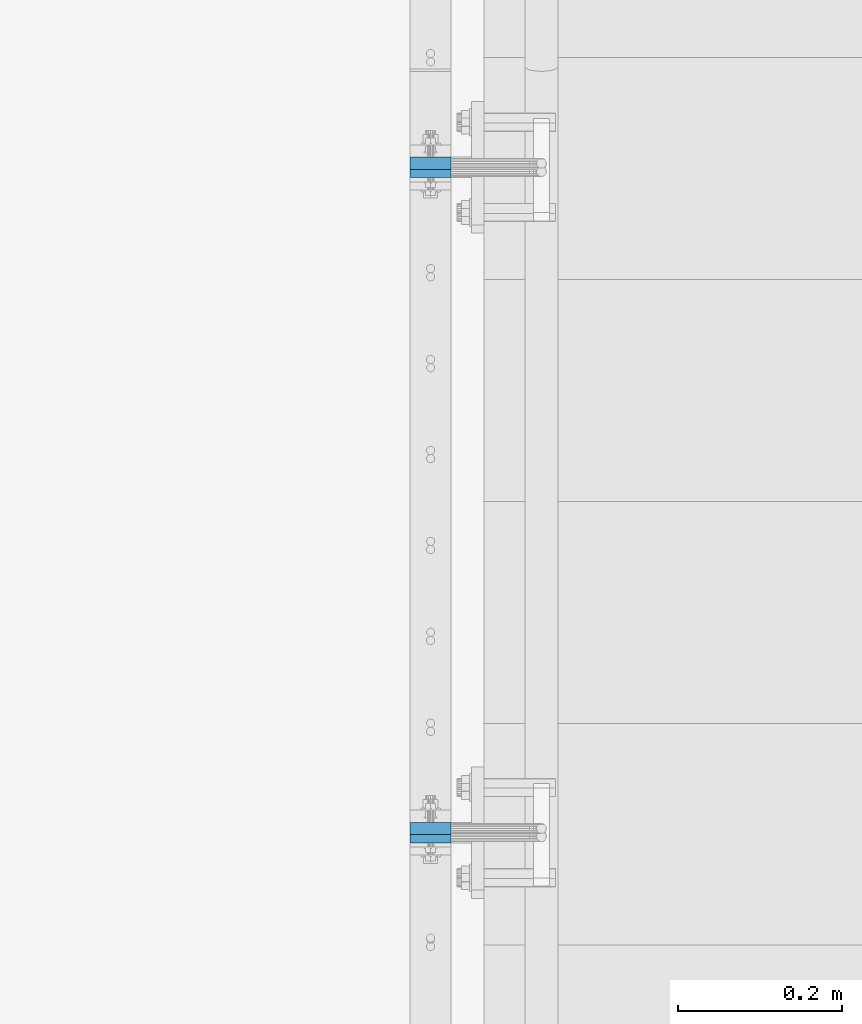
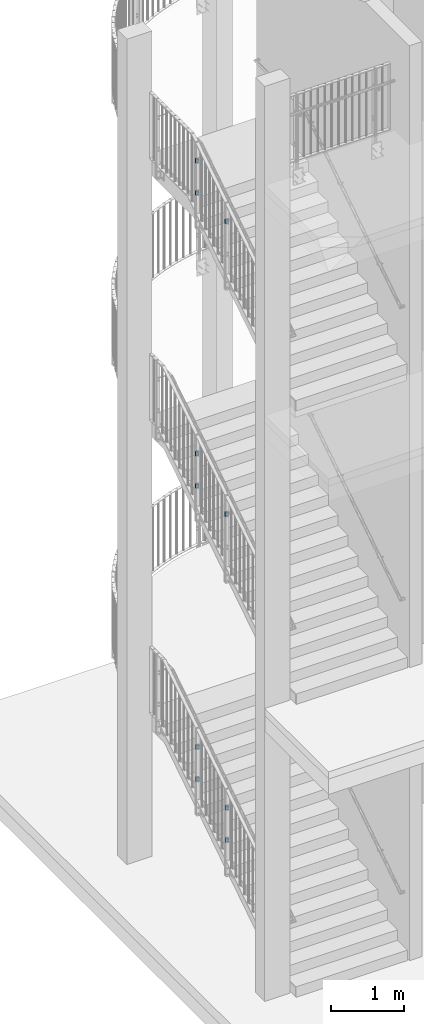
# One storey, part 122 of 296: 10 plates, 20 openings.
"""IFC2X3 building model written with IfcOpenShell, lengths in millimetres."""

from ifc_helpers import new_model, entity, si_unit, converted_unit, frame, frame_2d, origin, origin_with_axes, place, context, project, spatial, polyline, circle, outline, extrude, material, layer, layer_set, element, save


model = new_model("IFC2X3")

# Units and contexts
model_context = context("Model", 3, precision=1e-09, world=origin_with_axes())
ifc_project = project(units=[si_unit("LENGTHUNIT", "METRE", prefix="MILLI"), si_unit("AREAUNIT", "SQUARE_METRE"), si_unit("VOLUMEUNIT", "CUBIC_METRE"), converted_unit("PLANEANGLEUNIT", "DEGREE", entity("IfcPlaneAngleMeasure", 0.01745329), si_unit("PLANEANGLEUNIT", "RADIAN"), dimensions=[0, 0, 0, 0, 0, 0, 0])], contexts=[model_context])

# Site, building, storey
site_placement = place(None, origin_with_axes())
site = spatial("IfcSite", under=ifc_project, at=site_placement, Name="TZD-S?d | Treppenhausgel?nder", CompositionType="ELEMENT")
building_placement = place(site_placement, origin_with_axes())
building = spatial("IfcBuilding", under=site, at=building_placement, Name="Struktur 1", CompositionType="ELEMENT")
storey_placement = place(building_placement, origin_with_axes())
storey = spatial("IfcBuildingStorey", under=building, at=storey_placement, Name="Default Storey", CompositionType="ELEMENT", Elevation=0.0)

# Plate, openings
ifc_material = material(Name="S235JR")
ifc_layer = layer(ifc_material, 15.0)
ifc_layer_set = layer_set([ifc_layer], Name="S235JR")
plate_1_placement = place(None, frame((-45.0, -1552.5, 11904.999), z_axis=(0.0, -1.0, 0.0), x_axis=(1.0, 0.0, 0.0)))
plate_1 = element("IfcPlate", 1, at=plate_1_placement, inside=storey, material=ifc_layer_set, Name="Girder", ObjectType="Girder", context=model_context, shape_type="SweptSolid", body=[
    extrude(outline(polyline([(-25.0, -40.0), (25.0, -40.0), (25.0, 40.0), (-25.0, 40.0), (-25.0, -40.0)])), origin_with_axes(), (0.0, 0.0, 1.0), 15.0),
])
opening_1_placement = place(plate_1_placement, frame((0.0, -1e-09, -0.5), z_axis=(0.0, 0.0, 1.0), x_axis=(1.0, 0.0, 0.0)))
element("IfcOpeningElement", 2, at=opening_1_placement, cuts=plate_1, ObjectType="Opening", context=model_context, shape_type="SweptSolid", body=[
    extrude(circle(Radius=5.001, at=frame_2d((0.0, 25.0), x_axis=(1.0, 0.0))), origin(), (0.0, 0.0, 1.0), 16.0),
])
opening_2_placement = place(plate_1_placement, frame((0.0, -1e-09, -0.5), z_axis=(0.0, 0.0, 1.0), x_axis=(1.0, 0.0, 0.0)))
element("IfcOpeningElement", 3, at=opening_2_placement, cuts=plate_1, ObjectType="Opening", context=model_context, shape_type="SweptSolid", body=[
    extrude(circle(Radius=5.001, at=frame_2d((0.0, -25.0), x_axis=(1.0, 0.0))), origin(), (0.0, 0.0, 1.0), 16.0),
])

plate_2_placement = place(None, frame((-45.0, -1552.5, 12443.071241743), z_axis=(0.0, -1.0, 0.0), x_axis=(1.0, 0.0, 0.0)))
plate_2 = element("IfcPlate", 4, at=plate_2_placement, inside=storey, material=ifc_layer_set, Name="Girder", ObjectType="Girder", context=model_context, shape_type="SweptSolid", body=[
    extrude(outline(polyline([(-25.0, -40.0), (25.0, -40.0), (25.0, 40.0), (-25.0, 40.0), (-25.0, -40.0)])), origin_with_axes(), (0.0, 0.0, 1.0), 15.0),
])
opening_3_placement = place(plate_2_placement, frame((0.0, -1e-09, -0.5), z_axis=(0.0, 0.0, 1.0), x_axis=(1.0, 0.0, 0.0)))
element("IfcOpeningElement", 5, at=opening_3_placement, cuts=plate_2, ObjectType="Opening", context=model_context, shape_type="SweptSolid", body=[
    extrude(circle(Radius=5.001, at=frame_2d((0.0, 25.0), x_axis=(1.0, 0.0))), origin(), (0.0, 0.0, 1.0), 16.0),
])
opening_4_placement = place(plate_2_placement, frame((0.0, -1e-09, -0.5), z_axis=(0.0, 0.0, 1.0), x_axis=(1.0, 0.0, 0.0)))
element("IfcOpeningElement", 6, at=opening_4_placement, cuts=plate_2, ObjectType="Opening", context=model_context, shape_type="SweptSolid", body=[
    extrude(circle(Radius=5.001, at=frame_2d((0.0, -25.0), x_axis=(1.0, 0.0))), origin(), (0.0, 0.0, 1.0), 16.0),
])

plate_3_placement = place(None, frame((-45.0, -1552.5, 7004.999), z_axis=(0.0, -1.0, 0.0), x_axis=(1.0, 0.0, 0.0)))
plate_3 = element("IfcPlate", 7, at=plate_3_placement, inside=storey, material=ifc_layer_set, Name="Girder", ObjectType="Girder", context=model_context, shape_type="SweptSolid", body=[
    extrude(outline(polyline([(-25.0, -40.0), (25.0, -40.0), (25.0, 40.0), (-25.0, 40.0), (-25.0, -40.0)])), origin_with_axes(), (0.0, 0.0, 1.0), 15.0),
])
opening_5_placement = place(plate_3_placement, frame((0.0, -1e-09, -0.5), z_axis=(0.0, 0.0, 1.0), x_axis=(1.0, 0.0, 0.0)))
element("IfcOpeningElement", 8, at=opening_5_placement, cuts=plate_3, ObjectType="Opening", context=model_context, shape_type="SweptSolid", body=[
    extrude(circle(Radius=5.001, at=frame_2d((0.0, 25.0), x_axis=(1.0, 0.0))), origin(), (0.0, 0.0, 1.0), 16.0),
])
opening_6_placement = place(plate_3_placement, frame((0.0, -1e-09, -0.5), z_axis=(0.0, 0.0, 1.0), x_axis=(1.0, 0.0, 0.0)))
element("IfcOpeningElement", 9, at=opening_6_placement, cuts=plate_3, ObjectType="Opening", context=model_context, shape_type="SweptSolid", body=[
    extrude(circle(Radius=5.001, at=frame_2d((0.0, -25.0), x_axis=(1.0, 0.0))), origin(), (0.0, 0.0, 1.0), 16.0),
])

plate_4_placement = place(None, frame((-45.0, -1552.5, 7546.985869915), z_axis=(0.0, -1.0, 0.0), x_axis=(1.0, 0.0, 0.0)))
plate_4 = element("IfcPlate", 10, at=plate_4_placement, inside=storey, material=ifc_layer_set, Name="Girder", ObjectType="Girder", context=model_context, shape_type="SweptSolid", body=[
    extrude(outline(polyline([(-25.0, -40.0), (25.0, -40.0), (25.0, 40.0), (-25.0, 40.0), (-25.0, -40.0)])), origin_with_axes(), (0.0, 0.0, 1.0), 15.0),
])
opening_7_placement = place(plate_4_placement, frame((0.0, -1e-09, -0.5), z_axis=(0.0, 0.0, 1.0), x_axis=(1.0, 0.0, 0.0)))
element("IfcOpeningElement", 11, at=opening_7_placement, cuts=plate_4, ObjectType="Opening", context=model_context, shape_type="SweptSolid", body=[
    extrude(circle(Radius=5.001, at=frame_2d((0.0, 25.0), x_axis=(1.0, 0.0))), origin(), (0.0, 0.0, 1.0), 16.0),
])
opening_8_placement = place(plate_4_placement, frame((0.0, -1e-09, -0.5), z_axis=(0.0, 0.0, 1.0), x_axis=(1.0, 0.0, 0.0)))
element("IfcOpeningElement", 12, at=opening_8_placement, cuts=plate_4, ObjectType="Opening", context=model_context, shape_type="SweptSolid", body=[
    extrude(circle(Radius=5.001, at=frame_2d((0.0, -25.0), x_axis=(1.0, 0.0))), origin(), (0.0, 0.0, 1.0), 16.0),
])

plate_5_placement = place(None, frame((-45.0, -1562.5, 2104.999), z_axis=(0.0, -1.0, 0.0), x_axis=(1.0, 0.0, 0.0)))
plate_5 = element("IfcPlate", 13, at=plate_5_placement, inside=storey, material=ifc_layer_set, Name="Girder", ObjectType="Girder", context=model_context, shape_type="SweptSolid", body=[
    extrude(outline(polyline([(-25.0, -40.0), (25.0, -40.0), (25.0, 40.0), (-25.0, 40.0), (-25.0, -40.0)])), origin_with_axes(), (0.0, 0.0, 1.0), 15.0),
])
opening_9_placement = place(plate_5_placement, frame((0.0, -1e-09, -0.5), z_axis=(0.0, 0.0, 1.0), x_axis=(1.0, 0.0, 0.0)))
element("IfcOpeningElement", 14, at=opening_9_placement, cuts=plate_5, ObjectType="Opening", context=model_context, shape_type="SweptSolid", body=[
    extrude(circle(Radius=5.001, at=frame_2d((0.0, 25.0), x_axis=(1.0, 0.0))), origin(), (0.0, 0.0, 1.0), 16.0),
])
opening_10_placement = place(plate_5_placement, frame((0.0, -1e-09, -0.5), z_axis=(0.0, 0.0, 1.0), x_axis=(1.0, 0.0, 0.0)))
element("IfcOpeningElement", 15, at=opening_10_placement, cuts=plate_5, ObjectType="Opening", context=model_context, shape_type="SweptSolid", body=[
    extrude(circle(Radius=5.001, at=frame_2d((0.0, -25.0), x_axis=(1.0, 0.0))), origin(), (0.0, 0.0, 1.0), 16.0),
])

plate_6_placement = place(None, frame((-45.0, -1562.5, 2646.944925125), z_axis=(0.0, -1.0, 0.0), x_axis=(1.0, 0.0, 0.0)))
plate_6 = element("IfcPlate", 16, at=plate_6_placement, inside=storey, material=ifc_layer_set, Name="Girder", ObjectType="Girder", context=model_context, shape_type="SweptSolid", body=[
    extrude(outline(polyline([(-25.0, -40.0), (25.0, -40.0), (25.0, 40.0), (-25.0, 40.0), (-25.0, -40.0)])), origin_with_axes(), (0.0, 0.0, 1.0), 15.0),
])
opening_11_placement = place(plate_6_placement, frame((0.0, -1e-09, -0.5), z_axis=(0.0, 0.0, 1.0), x_axis=(1.0, 0.0, 0.0)))
element("IfcOpeningElement", 17, at=opening_11_placement, cuts=plate_6, ObjectType="Opening", context=model_context, shape_type="SweptSolid", body=[
    extrude(circle(Radius=5.001, at=frame_2d((0.0, 25.0), x_axis=(1.0, 0.0))), origin(), (0.0, 0.0, 1.0), 16.0),
])
opening_12_placement = place(plate_6_placement, frame((0.0, -1e-09, -0.5), z_axis=(0.0, 0.0, 1.0), x_axis=(1.0, 0.0, 0.0)))
element("IfcOpeningElement", 18, at=opening_12_placement, cuts=plate_6, ObjectType="Opening", context=model_context, shape_type="SweptSolid", body=[
    extrude(circle(Radius=5.001, at=frame_2d((0.0, -25.0), x_axis=(1.0, 0.0))), origin(), (0.0, 0.0, 1.0), 16.0),
])

plate_7_placement = place(None, frame((-45.0, -2372.5, 1579.999), z_axis=(0.0, -1.0, 0.0), x_axis=(1.0, 0.0, 0.0)))
plate_7 = element("IfcPlate", 19, at=plate_7_placement, inside=storey, material=ifc_layer_set, Name="Girder", ObjectType="Girder", context=model_context, shape_type="SweptSolid", body=[
    extrude(outline(polyline([(-25.0, -40.0), (25.0, -40.0), (25.0, 40.0), (-25.0, 40.0), (-25.0, -40.0)])), origin_with_axes(), (0.0, 0.0, 1.0), 15.0),
])
opening_13_placement = place(plate_7_placement, frame((0.0, -1e-09, -0.5), z_axis=(0.0, 0.0, 1.0), x_axis=(1.0, 0.0, 0.0)))
element("IfcOpeningElement", 20, at=opening_13_placement, cuts=plate_7, ObjectType="Opening", context=model_context, shape_type="SweptSolid", body=[
    extrude(circle(Radius=5.001, at=frame_2d((0.0, 25.0), x_axis=(1.0, 0.0))), origin(), (0.0, 0.0, 1.0), 16.0),
])
opening_14_placement = place(plate_7_placement, frame((0.0, -1e-09, -0.5), z_axis=(0.0, 0.0, 1.0), x_axis=(1.0, 0.0, 0.0)))
element("IfcOpeningElement", 21, at=opening_14_placement, cuts=plate_7, ObjectType="Opening", context=model_context, shape_type="SweptSolid", body=[
    extrude(circle(Radius=5.001, at=frame_2d((0.0, -25.0), x_axis=(1.0, 0.0))), origin(), (0.0, 0.0, 1.0), 16.0),
])

plate_8_placement = place(None, frame((-45.0, -2372.5, 2121.447240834), z_axis=(0.0, -1.0, 0.0), x_axis=(1.0, 0.0, 0.0)))
plate_8 = element("IfcPlate", 22, at=plate_8_placement, inside=storey, material=ifc_layer_set, Name="Girder", ObjectType="Girder", context=model_context, shape_type="SweptSolid", body=[
    extrude(outline(polyline([(-25.0, -40.0), (25.0, -40.0), (25.0, 40.0), (-25.0, 40.0), (-25.0, -40.0)])), origin_with_axes(), (0.0, 0.0, 1.0), 15.0),
])
opening_15_placement = place(plate_8_placement, frame((0.0, -1e-09, -0.5), z_axis=(0.0, 0.0, 1.0), x_axis=(1.0, 0.0, 0.0)))
element("IfcOpeningElement", 23, at=opening_15_placement, cuts=plate_8, ObjectType="Opening", context=model_context, shape_type="SweptSolid", body=[
    extrude(circle(Radius=5.001, at=frame_2d((0.0, 25.0), x_axis=(1.0, 0.0))), origin(), (0.0, 0.0, 1.0), 16.0),
])
opening_16_placement = place(plate_8_placement, frame((0.0, -1e-09, -0.5), z_axis=(0.0, 0.0, 1.0), x_axis=(1.0, 0.0, 0.0)))
element("IfcOpeningElement", 24, at=opening_16_placement, cuts=plate_8, ObjectType="Opening", context=model_context, shape_type="SweptSolid", body=[
    extrude(circle(Radius=5.001, at=frame_2d((0.0, -25.0), x_axis=(1.0, 0.0))), origin(), (0.0, 0.0, 1.0), 16.0),
])

plate_9_placement = place(None, frame((-45.0, -2362.5, 7024.328549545), z_axis=(0.0, -1.0, 0.0), x_axis=(1.0, 0.0, 0.0)))
plate_9 = element("IfcPlate", 25, at=plate_9_placement, inside=storey, material=ifc_layer_set, Name="Girder", ObjectType="Girder", context=model_context, shape_type="SweptSolid", body=[
    extrude(outline(polyline([(-25.0, -40.0), (25.0, -40.0), (25.0, 40.0), (-25.0, 40.0), (-25.0, -40.0)])), origin_with_axes(), (0.0, 0.0, 1.0), 15.0),
])
opening_17_placement = place(plate_9_placement, frame((0.0, -1e-09, -0.5), z_axis=(0.0, 0.0, 1.0), x_axis=(1.0, 0.0, 0.0)))
element("IfcOpeningElement", 26, at=opening_17_placement, cuts=plate_9, ObjectType="Opening", context=model_context, shape_type="SweptSolid", body=[
    extrude(circle(Radius=5.001, at=frame_2d((0.0, 25.0), x_axis=(1.0, 0.0))), origin(), (0.0, 0.0, 1.0), 16.0),
])
opening_18_placement = place(plate_9_placement, frame((0.0, -1e-09, -0.5), z_axis=(0.0, 0.0, 1.0), x_axis=(1.0, 0.0, 0.0)))
element("IfcOpeningElement", 27, at=opening_18_placement, cuts=plate_9, ObjectType="Opening", context=model_context, shape_type="SweptSolid", body=[
    extrude(circle(Radius=5.001, at=frame_2d((0.0, -25.0), x_axis=(1.0, 0.0))), origin(), (0.0, 0.0, 1.0), 16.0),
])

plate_10_placement = place(None, frame((-45.0, -2362.5, 11918.642837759), z_axis=(0.0, -1.0, 0.0), x_axis=(1.0, 0.0, 0.0)))
plate_10 = element("IfcPlate", 28, at=plate_10_placement, inside=storey, material=ifc_layer_set, Name="Girder", ObjectType="Girder", context=model_context, shape_type="SweptSolid", body=[
    extrude(outline(polyline([(-25.0, -40.0), (25.0, -40.0), (25.0, 40.0), (-25.0, 40.0), (-25.0, -40.0)])), origin_with_axes(), (0.0, 0.0, 1.0), 15.0),
])
opening_19_placement = place(plate_10_placement, frame((0.0, -1e-09, -0.5), z_axis=(0.0, 0.0, 1.0), x_axis=(1.0, 0.0, 0.0)))
element("IfcOpeningElement", 29, at=opening_19_placement, cuts=plate_10, ObjectType="Opening", context=model_context, shape_type="SweptSolid", body=[
    extrude(circle(Radius=5.001, at=frame_2d((0.0, 25.0), x_axis=(1.0, 0.0))), origin(), (0.0, 0.0, 1.0), 16.0),
])
opening_20_placement = place(plate_10_placement, frame((0.0, -1e-09, -0.5), z_axis=(0.0, 0.0, 1.0), x_axis=(1.0, 0.0, 0.0)))
element("IfcOpeningElement", 30, at=opening_20_placement, cuts=plate_10, ObjectType="Opening", context=model_context, shape_type="SweptSolid", body=[
    extrude(circle(Radius=5.001, at=frame_2d((0.0, -25.0), x_axis=(1.0, 0.0))), origin(), (0.0, 0.0, 1.0), 16.0),
])

save(model, "model.ifc")
